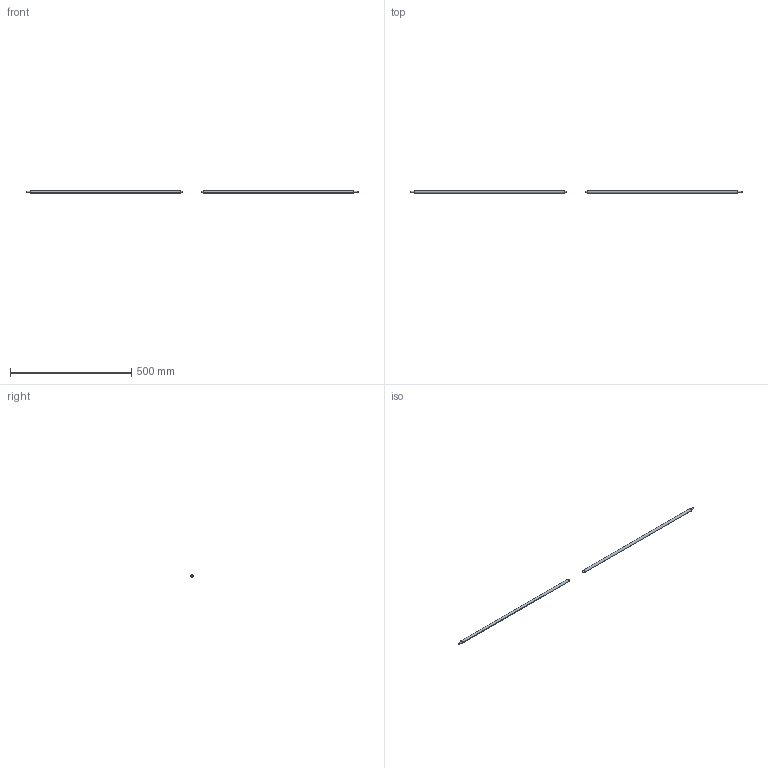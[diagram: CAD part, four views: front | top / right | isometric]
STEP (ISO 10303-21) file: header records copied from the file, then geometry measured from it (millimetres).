
FILE_DESCRIPTION(/* description */ (''),/* implementation_level */ '2;1');
FILE_NAME(/* name */ 'Y-A2F3~1',/* time_stamp */ '2014-02-14T19:43:10+01:00',/* author */ (''),/* organization */ (''),/* preprocessor_version */ 'ST-DEVELOPER v14',/* originating_system */ '',/* authorisation */ '');
FILE_SCHEMA (('AUTOMOTIVE_DESIGN'));
Length unit declared in the file: millimetre
Products named in the file (1): Document
Bounding box: 1368 x 12 x 12 mm (x, y, z)
Volume: 142011.8 mm3; surface area: 48119.6 mm2
Topology: 2 solids, 2 shells, 44 faces, 92 edges, 56 vertices
Faces by surface type: bspline 36, plane 8
Entity records: 3175 total; most frequent: CARTESIAN_POINT 1986, B_SPLINE_CURVE_WITH_KNOTS 188, ORIENTED_EDGE 184, PCURVE 184, DEFINITIONAL_REPRESENTATION 184, SURFACE_CURVE 92, EDGE_CURVE 92, VERTEX_POINT 56
